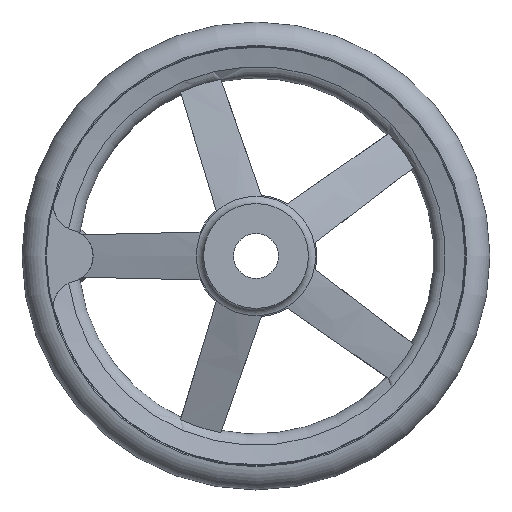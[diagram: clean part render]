
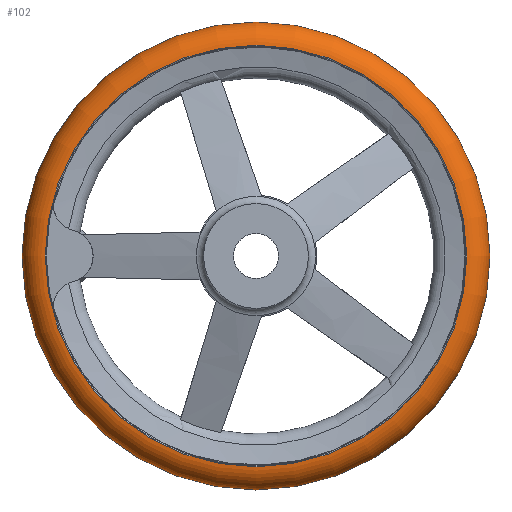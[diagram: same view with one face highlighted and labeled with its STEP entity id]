
A CAD part, left-side view. The second image highlights one B-rep face of the part: STEP entity #102.
In plain terms, the highlighted toroidal (fillet/blend) face has major radius 112 mm and minor radius 13 mm.
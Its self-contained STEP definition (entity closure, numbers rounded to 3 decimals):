
#102 = ADVANCED_FACE( '', ( #192, #193, #194 ), #195, .T. );
#192 = FACE_BOUND( '', #323, .T. );
#193 = FACE_OUTER_BOUND( '', #324, .T. );
#194 = FACE_OUTER_BOUND( '', #325, .T. );
#195 = TOROIDAL_SURFACE( '', #326, 112., 13. );
#323 = VERTEX_LOOP( '', #668 );
#324 = EDGE_LOOP( '', ( #669 ) );
#325 = EDGE_LOOP( '', ( #670 ) );
#326 = AXIS2_PLACEMENT_3D( '', #671, #672, #673 );
#668 = VERTEX_POINT( '', #917 );
#669 = ORIENTED_EDGE( '', *, *, #918, .T. );
#670 = ORIENTED_EDGE( '', *, *, #919, .F. );
#671 = CARTESIAN_POINT( '', ( 53., 0., 0. ) );
#672 = DIRECTION( '', ( 1., 0., 0. ) );
#673 = DIRECTION( '', ( 0., 1., 0. ) );
#917 = CARTESIAN_POINT( '', ( 53., 125., 0. ) );
#918 = EDGE_CURVE( '', #1114, #1114, #1115, .T. );
#919 = EDGE_CURVE( '', #1116, #1116, #1117, .T. );
#1114 = VERTEX_POINT( '', #1847 );
#1115 = CIRCLE( '', #1848, 112.542 );
#1116 = VERTEX_POINT( '', #1849 );
#1117 = CIRCLE( '', #1850, 112.542 );
#1847 = CARTESIAN_POINT( '', ( 40.011, 112.542, 0. ) );
#1848 = AXIS2_PLACEMENT_3D( '', #2045, #2046, #2047 );
#1849 = CARTESIAN_POINT( '', ( 65.989, 112.542, 0. ) );
#1850 = AXIS2_PLACEMENT_3D( '', #2048, #2049, #2050 );
#2045 = CARTESIAN_POINT( '', ( 40.011, 0., 0. ) );
#2046 = DIRECTION( '', ( 1., 0., 0. ) );
#2047 = DIRECTION( '', ( 0., 1., 0. ) );
#2048 = CARTESIAN_POINT( '', ( 65.989, 0., 0. ) );
#2049 = DIRECTION( '', ( 1., 0., 0. ) );
#2050 = DIRECTION( '', ( 0., 1., 0. ) );
